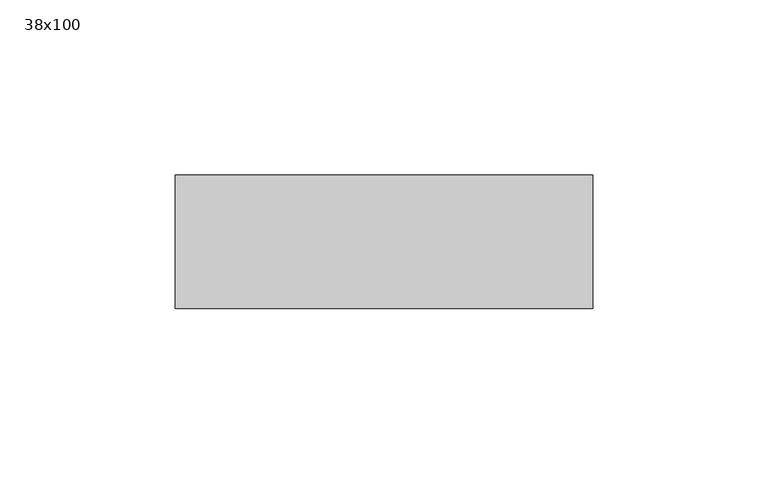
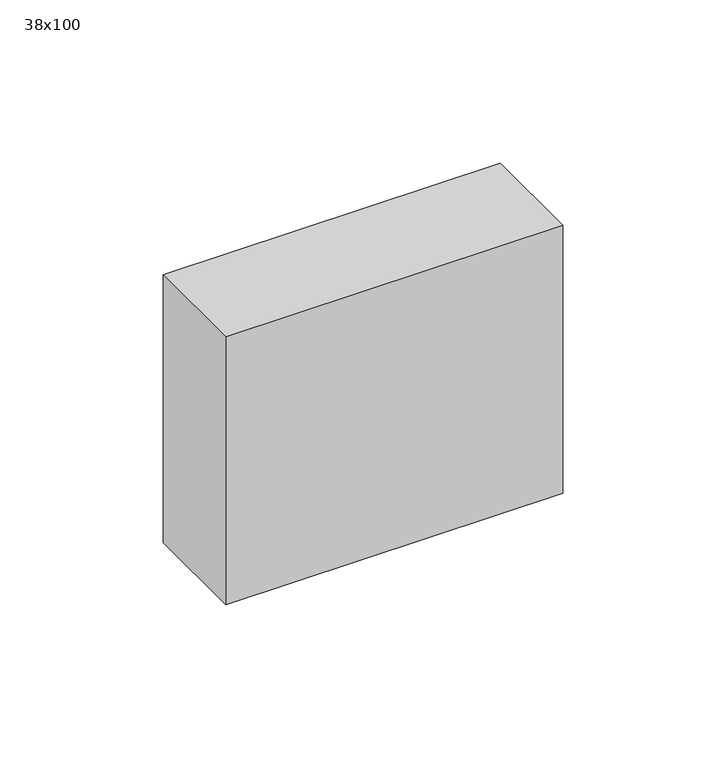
"""IFC4 building model written with IfcOpenShell, lengths in millimetres: beam geometry, Poutre - Bois de construction de dimensions courantes : 38x100."""

import ifcopenshell
import ifcopenshell.guid

model = None  # the IFC model being written
_history = None  # IfcOwnerHistory: only IFC2X3 demands one
_inside = {}  # id of a spatial element -> (the spatial element, [elements in it])
_under = {}  # id of a project, library or spatial element -> (it, [spatial elements below it])
_declared = {}  # id of a project -> (the project, [libraries it declares])
_typed = {}  # id of a type object -> (the type object, [elements of that type])
_made_of = {}  # id of a material, layer set ... -> (it, [elements and type objects made of it])


def new_model(schema):
    """Start an empty IFC model of exactly this schema.

    Asked for "IFC4X3", IfcOpenShell would pick the latest addendum, in which some entities
    have other attributes; the version numbers below select the first issue.
    IFC2X3 requires an IfcOwnerHistory on every rooted entity: one is made here for all.
    """
    global model, _history
    if schema == "IFC4X3":
        model = ifcopenshell.file(schema_version=(4, 3, 0, 0))
    else:
        model = ifcopenshell.file(schema=schema)
    _inside.clear()
    _under.clear()
    _declared.clear()
    _typed.clear()
    _made_of.clear()
    _history = None
    if model.schema == "IFC2X3":
        org = make("IfcOrganization", Name="unknown")
        user = make(
            "IfcPersonAndOrganization",
            ThePerson=make("IfcPerson", FamilyName="unknown"),
            TheOrganization=org,
        )
        app = make(
            "IfcApplication",
            ApplicationDeveloper=org,
            Version="unknown",
            ApplicationFullName="unknown",
            ApplicationIdentifier="unknown",
        )
        _history = make(
            "IfcOwnerHistory",
            OwningUser=user,
            OwningApplication=app,
            ChangeAction="ADDED",
            CreationDate=0,
        )
    return model


def make(cls, **values):
    """One entity of the class cls with the attributes given. An attribute that is None is left unset."""
    return model.create_entity(
        cls, **{name: value for name, value in values.items() if value is not None}
    )


def rooted(cls, **values):
    """An entity with a GlobalId (a new one), such as an element, a storey or a relation."""
    return make(cls, GlobalId=ifcopenshell.guid.new(), OwnerHistory=_history, **values)


def si_unit(unit_type, name, prefix=None):
    """IfcSIUnit, for example si_unit("LENGTHUNIT", "METRE", prefix="MILLI")."""
    return make("IfcSIUnit", UnitType=unit_type, Prefix=prefix, Name=name)


def assignment(units):
    """IfcUnitAssignment: the units of a project."""
    return None if units is None else make("IfcUnitAssignment", Units=units)


def point(xyz):
    """IfcCartesianPoint."""
    return None if xyz is None else make("IfcCartesianPoint", Coordinates=xyz)


def direction(xyz):
    """IfcDirection."""
    return None if xyz is None else make("IfcDirection", DirectionRatios=xyz)


def frame(location, z_axis=None, x_axis=None):
    """IfcAxis2Placement3D, a coordinate frame: its origin and axes. An axis left out is left unset."""
    return make(
        "IfcAxis2Placement3D",
        Location=point(location),
        Axis=direction(z_axis),
        RefDirection=direction(x_axis),
    )


def origin():
    """The frame at (0, 0, 0) with its axes left unset."""
    return frame((0.0, 0.0, 0.0))


def place(relative_to, where):
    """IfcLocalPlacement: puts the frame where relative to a parent placement (None: the world)."""
    return make(
        "IfcLocalPlacement", PlacementRelTo=relative_to, RelativePlacement=where
    )


def context(
    kind, dimensions, precision=None, world=None, true_north=None, identifier=None
):
    """IfcGeometricRepresentationContext, for example the 3D "Model" context."""
    return make(
        "IfcGeometricRepresentationContext",
        ContextIdentifier=identifier,
        ContextType=kind,
        CoordinateSpaceDimension=dimensions,
        Precision=precision,
        WorldCoordinateSystem=world,
        TrueNorth=true_north,
    )


def project(units=None, contexts=None):
    """IfcProject with its units and contexts."""
    return rooted(
        "IfcProject",
        Name="project",
        RepresentationContexts=contexts,
        UnitsInContext=assignment(units),
    )


def spatial(cls, under=None, at=None, **own):
    """A site, building, storey or space (cls), placed at a placement, below another one or the project."""
    s = rooted(cls, ObjectPlacement=at, **own)
    if under is not None:
        _under.setdefault(under.id(), (under, []))[1].append(s)
    return s


def polyline(points):
    """IfcPolyline through the points."""
    return make("IfcPolyline", Points=[point(p) for p in points])


def outline(outer, holes=None, kind="AREA"):
    """IfcArbitraryClosedProfileDef: a profile drawn as a closed curve; with holes, ...WithVoids."""
    if holes is None:
        return make("IfcArbitraryClosedProfileDef", ProfileType=kind, OuterCurve=outer)
    return make(
        "IfcArbitraryProfileDefWithVoids",
        ProfileType=kind,
        OuterCurve=outer,
        InnerCurves=holes,
    )


def extrude(swept, where, along, depth):
    """IfcExtrudedAreaSolid: the profile swept, set in the frame where, extruded along a direction by depth."""
    return make(
        "IfcExtrudedAreaSolid",
        SweptArea=swept,
        Position=where,
        ExtrudedDirection=direction(along),
        Depth=depth,
    )


def shape(context_of_items, identifier, shape_type, items):
    """IfcShapeRepresentation: the items that make up one representation, for example the "Body"."""
    return make(
        "IfcShapeRepresentation",
        ContextOfItems=context_of_items,
        RepresentationIdentifier=identifier,
        RepresentationType=shape_type,
        Items=items,
    )


def source(mapping_origin, context_of_items, identifier, shape_type, items):
    """IfcRepresentationMap: a shape defined once, which mapped items show again and again."""
    return make(
        "IfcRepresentationMap",
        MappingOrigin=mapping_origin,
        MappedRepresentation=shape(context_of_items, identifier, shape_type, items),
    )


def transform(
    local_origin,
    x_axis=None,
    y_axis=None,
    z_axis=None,
    scale=None,
    scale2=None,
    scale3=None,
    uniform=True,
):
    """IfcCartesianTransformationOperator3D, or its non-uniform kind. x_axis, y_axis, z_axis: its Axis1, 2, 3."""
    if uniform:
        return make(
            "IfcCartesianTransformationOperator3D",
            Axis1=direction(x_axis),
            Axis2=direction(y_axis),
            LocalOrigin=point(local_origin),
            Scale=scale,
            Axis3=direction(z_axis),
        )
    return make(
        "IfcCartesianTransformationOperator3DnonUniform",
        Axis1=direction(x_axis),
        Axis2=direction(y_axis),
        LocalOrigin=point(local_origin),
        Scale=scale,
        Axis3=direction(z_axis),
        Scale2=scale2,
        Scale3=scale3,
    )


def mapped(mapping_source, mapping_target):
    """IfcMappedItem: shows the shape of a source again, moved by a transform."""
    return make(
        "IfcMappedItem", MappingSource=mapping_source, MappingTarget=mapping_target
    )


def made_of(thing, what):
    """Note that an element or type object is made of a material, layer set ...; save() writes the relation."""
    if what is not None:
        _made_of.setdefault(what.id(), (what, []))[1].append(thing)
    return thing


def element(
    cls,
    number,
    at=None,
    inside=None,
    cuts=None,
    type_object=None,
    material=None,
    context=None,
    identifier="Body",
    shape_type=None,
    held_by="IfcProductDefinitionShape",
    body=None,
    shapes=None,
    **own,
):
    """One element of the class cls, such as IfcWall. Its Tag is "e" and its number.

    at: its placement. inside: the storey or other place that contains it. cuts: it is an
    opening in that element (IfcRelVoidsElement). A single representation is given by context,
    identifier, shape_type and body (its items); several are given by shapes. held_by: the class
    of the entity that holds the representations. save() writes the other relations.
    """
    e = rooted(cls, Tag="e%d" % number, ObjectPlacement=at, **own)
    if body is not None:
        shapes = [shape(context, identifier, shape_type, body)]
    if shapes is not None:
        e.Representation = make(held_by, Representations=shapes)
    if inside is not None:
        _inside.setdefault(inside.id(), (inside, []))[1].append(e)
    if cuts is not None:
        rooted(
            "IfcRelVoidsElement", RelatingBuildingElement=cuts, RelatedOpeningElement=e
        )
    if type_object is not None:
        _typed.setdefault(type_object.id(), (type_object, []))[1].append(e)
    return made_of(e, material)


def aggregate(whole, parts):
    """IfcRelAggregates: a whole, such as a stair, and the parts it consists of."""
    return rooted("IfcRelAggregates", RelatingObject=whole, RelatedObjects=parts)


def save(model, path):
    """Write the relations noted so far, then the file.

    IfcRelAggregates (storeys below a building ...), IfcRelContainedInSpatialStructure (elements
    in a storey), IfcRelDefinesByType, IfcRelAssociatesMaterial and IfcRelDeclares: one each for
    every whole, place, type object, material and project.
    """
    for whole, parts in _under.values():
        aggregate(whole, parts)
    for where, things in _inside.values():
        rooted(
            "IfcRelContainedInSpatialStructure",
            RelatedElements=things,
            RelatingStructure=where,
        )
    for kind, things in _typed.values():
        rooted("IfcRelDefinesByType", RelatedObjects=things, RelatingType=kind)
    for what, things in _made_of.values():
        rooted("IfcRelAssociatesMaterial", RelatedObjects=things, RelatingMaterial=what)
    for by, libraries in _declared.values():
        rooted("IfcRelDeclares", RelatingContext=by, RelatedDefinitions=libraries)
    model.write(path)


def beam_38x100_40921bc0(model_context):
    return source(origin(), model_context, "Body", "SweptSolid", [
        extrude(outline(polyline([(52.5, 19.05), (52.5, -19.05), (-66.5, -19.05), (-66.5, 19.05), (52.5, 19.05)])), frame((0.0, 0.0, -50.0), z_axis=(0.0, 0.0, 1.0), x_axis=(1.0, 0.0, 0.0)), (0.0, 0.0, 1.0), 100.0),
    ])


if __name__ == "__main__":
    model = new_model("IFC4")
    model_context = context("Model", 3, world=origin())
    ifc_project = project(units=[si_unit("LENGTHUNIT", "METRE", prefix="MILLI")], contexts=[model_context])
    site = spatial("IfcSite", under=ifc_project)
    building = spatial("IfcBuilding", under=site)
    placement = place(None, origin())
    beam_38x100_shape = beam_38x100_40921bc0(model_context)
    element("IfcBeam", 1, ObjectType="Poutre - Bois de construction de dimensions courantes : 38x100", at=placement, inside=building, context=model_context, shape_type="MappedRepresentation", body=[
        mapped(beam_38x100_shape, transform((0.0, 0.0, 0.0), x_axis=(1.0, 0.0, 0.0), y_axis=(0.0, 1.0, 0.0), z_axis=(0.0, 0.0, 1.0))),
    ])
    save(model, "model.ifc")
